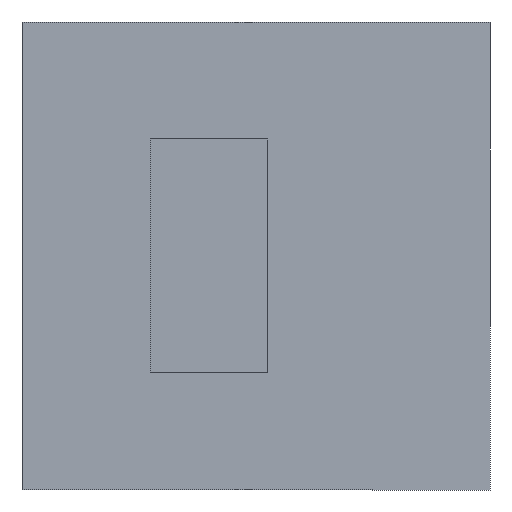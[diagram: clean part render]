
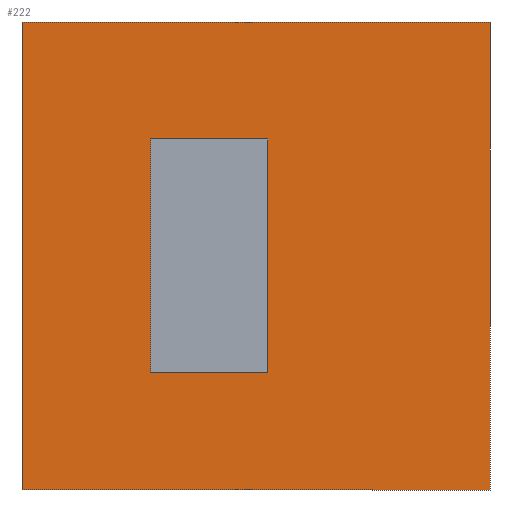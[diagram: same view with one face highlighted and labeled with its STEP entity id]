
A CAD part, front view. The second image highlights one B-rep face of the part: STEP entity #222.
In plain terms, the highlighted planar face has unit normal (0, -1, 0).
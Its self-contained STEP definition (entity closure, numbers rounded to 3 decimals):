
#9 = CARTESIAN_POINT ( 'NONE',  ( 0.5, 0., 5. ) ) ;
#11 = CARTESIAN_POINT ( 'NONE',  ( -10., 0., -10. ) ) ;
#15 = CARTESIAN_POINT ( 'NONE',  ( 0.5, 0., -5. ) ) ;
#40 = CARTESIAN_POINT ( 'NONE',  ( -4.5, 0., 5. ) ) ;
#72 = EDGE_CURVE ( 'NONE', #898, #844, #833, .T. ) ;
#74 = EDGE_CURVE ( 'NONE', #844, #840, #834, .T. ) ;
#76 = EDGE_CURVE ( 'NONE', #840, #882, #831, .T. ) ;
#78 = EDGE_CURVE ( 'NONE', #882, #898, #865, .T. ) ;
#81 = EDGE_CURVE ( 'NONE', #901, #835, #875, .T. ) ;
#85 = EDGE_CURVE ( 'NONE', #838, #894, #876, .T. ) ;
#86 = EDGE_CURVE ( 'NONE', #838, #835, #820, .T. ) ;
#126 = AXIS2_PLACEMENT_3D ( 'NONE', #550, #551, #552 ) ;
#148 = CARTESIAN_POINT ( 'NONE',  ( 10., 0., -10. ) ) ;
#157 = DIRECTION ( 'NONE',  ( 0., 0., 1. ) ) ;
#161 = DIRECTION ( 'NONE',  ( -1., 0., 0. ) ) ;
#164 = CARTESIAN_POINT ( 'NONE',  ( 0.5, 0., 0. ) ) ;
#222 = ADVANCED_FACE ( 'NONE', ( #777, #774 ), #545, .F. ) ;
#377 = EDGE_CURVE ( 'NONE', #894, #901, #683, .T. ) ;
#403 = CARTESIAN_POINT ( 'NONE',  ( 10., 0., 0. ) ) ;
#405 = DIRECTION ( 'NONE',  ( 0., 0., -1. ) ) ;
#407 = CARTESIAN_POINT ( 'NONE',  ( -10., 0., 0. ) ) ;
#409 = DIRECTION ( 'NONE',  ( 0., 0., -1. ) ) ;
#440 = CARTESIAN_POINT ( 'NONE',  ( -4.5, 0., 0. ) ) ;
#441 = CARTESIAN_POINT ( 'NONE',  ( 0., 0., 5. ) ) ;
#442 = DIRECTION ( 'NONE',  ( 1., 0., 0. ) ) ;
#443 = CARTESIAN_POINT ( 'NONE',  ( 0., 0., -5. ) ) ;
#495 = DIRECTION ( 'NONE',  ( 0., 0., 1. ) ) ;
#496 = CARTESIAN_POINT ( 'NONE',  ( -10., 0., -10. ) ) ;
#497 = DIRECTION ( 'NONE',  ( 1., 0., 0. ) ) ;
#515 = CARTESIAN_POINT ( 'NONE',  ( -10., 0., 10. ) ) ;
#519 = CARTESIAN_POINT ( 'NONE',  ( -4.5, 0., -5. ) ) ;
#522 = CARTESIAN_POINT ( 'NONE',  ( 10., 0., 10. ) ) ;
#545 = PLANE ( 'NONE',  #126 ) ;
#550 = CARTESIAN_POINT ( 'NONE',  ( 0., 0., 0. ) ) ;
#551 = DIRECTION ( 'NONE',  ( 0., 1., 0. ) ) ;
#552 = DIRECTION ( 'NONE',  ( 0., 0., 1. ) ) ;
#563 = CARTESIAN_POINT ( 'NONE',  ( 0., 0., 10. ) ) ;
#573 = DIRECTION ( 'NONE',  ( 1., 0., 0. ) ) ;
#675 = VECTOR ( 'NONE', #573, 1000. ) ;
#683 = LINE ( 'NONE', #563, #675 ) ;
#774 = FACE_OUTER_BOUND ( 'NONE', #922, .T. ) ;
#777 = FACE_BOUND ( 'NONE', #919, .T. ) ;
#817 = VECTOR ( 'NONE', #497, 1000. ) ;
#819 = VECTOR ( 'NONE', #495, 1000. ) ;
#820 = LINE ( 'NONE', #496, #817 ) ;
#827 = VECTOR ( 'NONE', #409, 1000. ) ;
#831 = LINE ( 'NONE', #441, #869 ) ;
#832 = VECTOR ( 'NONE', #442, 1000. ) ;
#833 = LINE ( 'NONE', #443, #832 ) ;
#834 = LINE ( 'NONE', #164, #866 ) ;
#835 = VERTEX_POINT ( 'NONE', #148 ) ;
#838 = VERTEX_POINT ( 'NONE', #11 ) ;
#840 = VERTEX_POINT ( 'NONE', #9 ) ;
#844 = VERTEX_POINT ( 'NONE', #15 ) ;
#865 = LINE ( 'NONE', #440, #874 ) ;
#866 = VECTOR ( 'NONE', #157, 1000. ) ;
#869 = VECTOR ( 'NONE', #161, 1000. ) ;
#874 = VECTOR ( 'NONE', #405, 1000. ) ;
#875 = LINE ( 'NONE', #403, #827 ) ;
#876 = LINE ( 'NONE', #407, #819 ) ;
#882 = VERTEX_POINT ( 'NONE', #40 ) ;
#894 = VERTEX_POINT ( 'NONE', #515 ) ;
#898 = VERTEX_POINT ( 'NONE', #519 ) ;
#901 = VERTEX_POINT ( 'NONE', #522 ) ;
#919 = EDGE_LOOP ( 'NONE', ( #1081, #1082, #1083, #1084 ) ) ;
#922 = EDGE_LOOP ( 'NONE', ( #1087, #1090, #1091, #1092 ) ) ;
#1081 = ORIENTED_EDGE ( 'NONE', *, *, #76, .F. ) ;
#1082 = ORIENTED_EDGE ( 'NONE', *, *, #74, .F. ) ;
#1083 = ORIENTED_EDGE ( 'NONE', *, *, #72, .F. ) ;
#1084 = ORIENTED_EDGE ( 'NONE', *, *, #78, .F. ) ;
#1087 = ORIENTED_EDGE ( 'NONE', *, *, #86, .T. ) ;
#1090 = ORIENTED_EDGE ( 'NONE', *, *, #81, .F. ) ;
#1091 = ORIENTED_EDGE ( 'NONE', *, *, #377, .F. ) ;
#1092 = ORIENTED_EDGE ( 'NONE', *, *, #85, .F. ) ;
